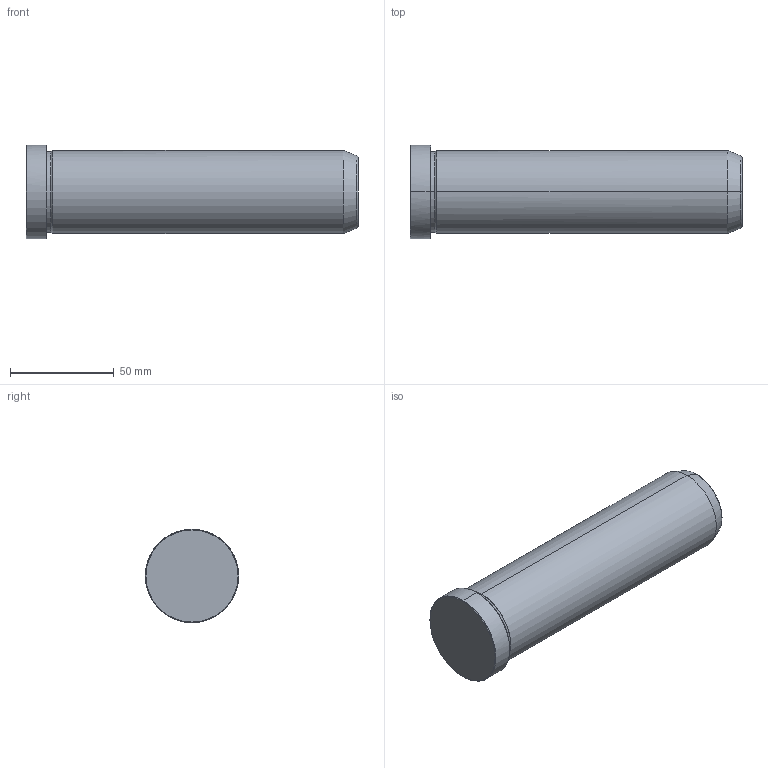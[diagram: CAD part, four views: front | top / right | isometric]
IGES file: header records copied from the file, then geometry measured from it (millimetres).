
Start section: START RECORD GO HERE.
Global section: file name: 549-40X160.igs; native system: DASSAULT SYSTEMES CATIA V5 R20 - www.3ds.com; preprocessor: CATIA Version 5 Release 20 ; author: Utente; organization: NB04-ASUS; date: 20211218.091622; units: millimetre
Bounding box: 160 x 45 x 45 mm (x, y, z)
Surface area: 23119.3 mm2 (no closed solid volume)
Topology: 0 solids, 0 shells, 19 faces, 112 edges, 112 vertices
Faces by surface type: revolution 16, plane 3
